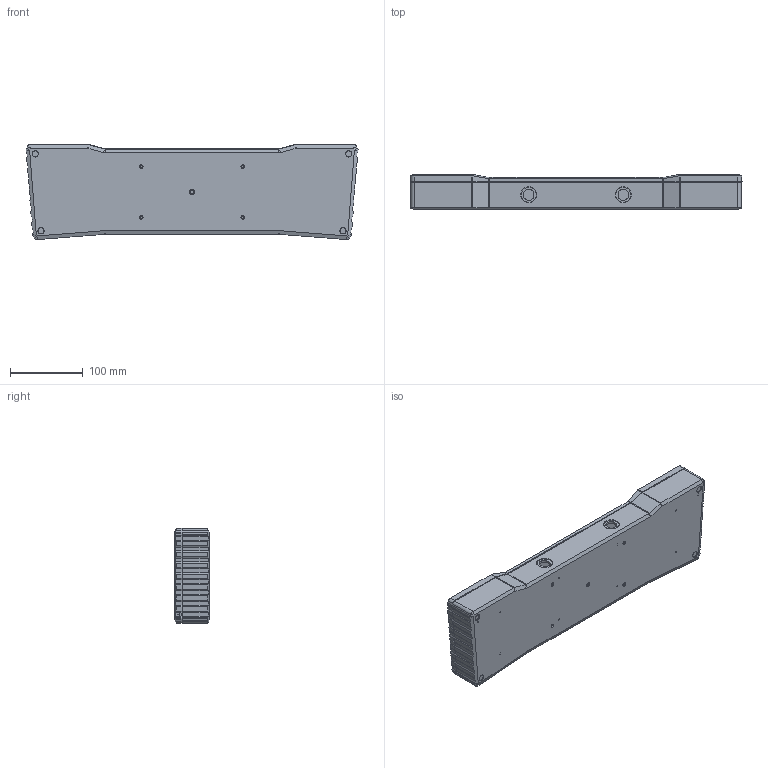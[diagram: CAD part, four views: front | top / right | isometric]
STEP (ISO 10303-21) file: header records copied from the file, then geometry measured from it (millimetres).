
FILE_DESCRIPTION((''),'2;1');
FILE_NAME('ASM0002_ASM','2024-05-28T',('Ҧ'),(''),'PRO/ENGINEER BY PARAMETRIC TECHNOLOGY CORPORATION, 2010280','PRO/ENGINEER BY PARAMETRIC TECHNOLOGY CORPORATION, 2010280','');
FILE_SCHEMA(('CONFIG_CONTROL_DESIGN'));
Length unit declared in the file: millimetre
Products named in the file (4): 8X100X450; 3002; PC-S; ASM0002_ASM
Assembly tree (3 placements, depth 2):
  ASM0002_ASM
    8X100X450
    3002
    PC-S
Bounding box: 457.36 x 48 x 131.02 mm (x, y, z)
Volume: 765696.6 mm3; surface area: 418978.7 mm2
Topology: 3 solids, 3 shells, 2167 faces, 5465 edges, 3356 vertices
Faces by surface type: plane 1090, cylinder 591, cone 434, bspline 52
Entity records: 65758 total; most frequent: CARTESIAN_POINT 13506, ORIENTED_EDGE 10886, DIRECTION 10865, EDGE_CURVE 5443, AXIS2_PLACEMENT_3D 3658, VECTOR 3549, LINE 3549, VERTEX_POINT 3356
